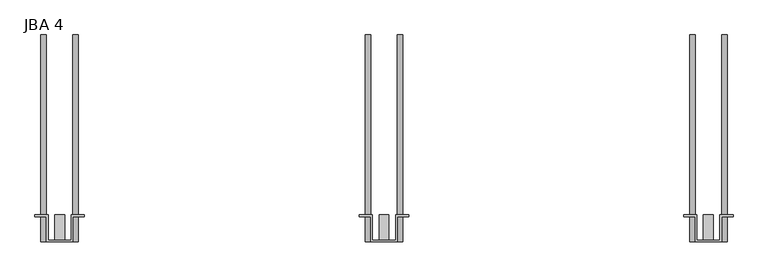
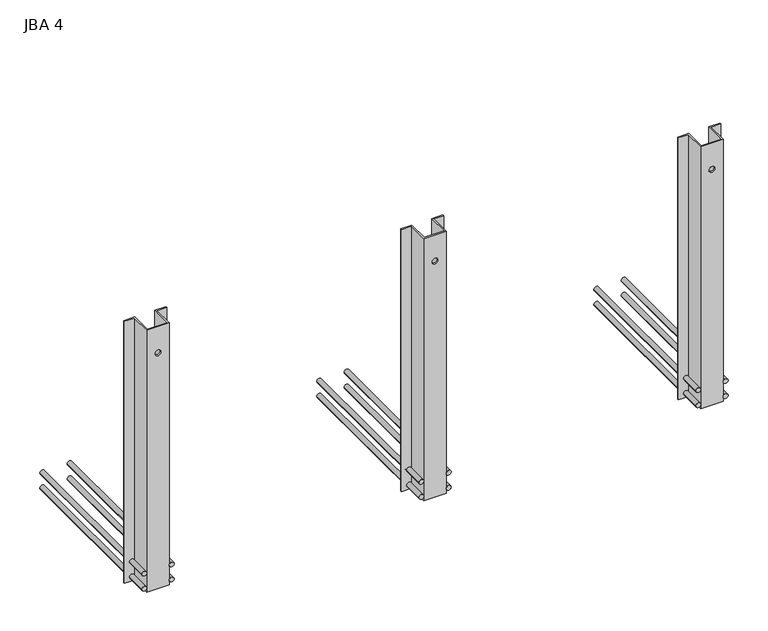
"""IFC4 building model written with IfcOpenShell, lengths in millimetres: fastener geometry, JBA JORDAHL® support corbels_1 : JBA 4."""

from ifc_helpers import new_model, si_unit, point, frame, frame_2d, origin, place, context, project, spatial, polyline, circle_curve, trimmed, segment, composite_curve, outline, extrude, source, transform, mapped, element, save
from ifc_brep_helpers import plane_surface, revolved_surface, advanced_brep


def jba_4_dde57de7(model_context):
    return source(origin(), model_context, "Body", "SolidModel", [
        extrude(outline(composite_curve([segment(trimmed(circle_curve(frame_2d((-32.0, 1560.5)), 7.0), [point((-32.0, 1553.5))], [point((-32.0, 1567.5))], False, "CARTESIAN"), True, "CONTINUOUS"), segment(trimmed(circle_curve(frame_2d((-32.0, 1560.5)), 7.0), [point((-32.0, 1567.5))], [point((-32.0, 1553.5))], False, "CARTESIAN"), True, "CONTINUOUS")], self_intersect=False)), frame((0.0, 0.0, 0.0), z_axis=(0.0, 1.0, 0.0), x_axis=(0.0, 0.0, 1.0)), (0.0, 0.0, 1.0), 510.0),
        extrude(outline(composite_curve([segment(trimmed(circle_curve(frame_2d((-32.0, 1639.5)), 7.0), [point((-32.0, 1632.5))], [point((-32.0, 1646.5))], False, "CARTESIAN"), True, "CONTINUOUS"), segment(trimmed(circle_curve(frame_2d((-32.0, 1639.5)), 7.0), [point((-32.0, 1646.5))], [point((-32.0, 1632.5))], False, "CARTESIAN"), True, "CONTINUOUS")], self_intersect=False)), frame((0.0, 0.0, 0.0), z_axis=(0.0, 1.0, 0.0), x_axis=(0.0, 0.0, 1.0)), (0.0, 0.0, 1.0), 510.0),
        extrude(outline(composite_curve([segment(trimmed(circle_curve(frame_2d((-78.0, 1560.5)), 7.0), [point((-78.0, 1553.5))], [point((-78.0, 1567.5))], False, "CARTESIAN"), True, "CONTINUOUS"), segment(trimmed(circle_curve(frame_2d((-78.0, 1560.5)), 7.0), [point((-78.0, 1567.5))], [point((-78.0, 1553.5))], False, "CARTESIAN"), True, "CONTINUOUS")], self_intersect=False)), frame((0.0, 0.0, 0.0), z_axis=(0.0, 1.0, 0.0), x_axis=(0.0, 0.0, 1.0)), (0.0, 0.0, 1.0), 510.0),
        extrude(outline(composite_curve([segment(trimmed(circle_curve(frame_2d((-78.0, 1639.5)), 7.0), [point((-78.0, 1632.5))], [point((-78.0, 1646.5))], False, "CARTESIAN"), True, "CONTINUOUS"), segment(trimmed(circle_curve(frame_2d((-78.0, 1639.5)), 7.0), [point((-78.0, 1646.5))], [point((-78.0, 1632.5))], False, "CARTESIAN"), True, "CONTINUOUS")], self_intersect=False)), frame((0.0, 0.0, 0.0), z_axis=(0.0, 1.0, 0.0), x_axis=(0.0, 0.0, 1.0)), (0.0, 0.0, 1.0), 510.0),
        advanced_brep(
        [(1539.0, 62.0, 708.0), (1567.5, 62.0, 708.0), (1567.5, 0.0, 708.0), (1632.5, 0.0, 708.0), (1632.5, 62.0, 708.0), (1661.0, 62.0, 708.0), (1661.0, 66.0, 708.0), (1628.5, 66.0, 708.0), (1628.5, 4.0, 708.0), (1571.5, 4.0, 708.0), (1571.5, 66.0, 708.0), (1539.0, 66.0, 708.0), (1539.0, 62.0, -92.0), (1539.0, 66.0, -92.0), (1571.5, 66.0, -92.0), (1571.5, 4.0, -92.0), (1628.5, 4.0, -92.0), (1628.5, 66.0, -92.0), (1661.0, 66.0, -92.0), (1661.0, 62.0, -92.0), (1632.5, 62.0, -92.0), (1632.5, 0.0, -92.0), (1567.5, 0.0, -92.0), (1567.5, 62.0, -92.0), (1608.5, 0.0, 628.0), (1591.5, 0.0, 628.0), (1591.5, 4.0, 628.0), (1608.5, 4.0, 628.0)],
        [
            (0, 1),
            (1, 2),
            (2, 3),
            (3, 4),
            (4, 5),
            (5, 6),
            (6, 7),
            (7, 8),
            (8, 9),
            (9, 10),
            (10, 11),
            (11, 0),
            (12, 13),
            (13, 14),
            (14, 15),
            (15, 16),
            (16, 17),
            (17, 18),
            (18, 19),
            (19, 20),
            (20, 21),
            (21, 22),
            (22, 23),
            (23, 12),
            (0, 12),
            (23, 1),
            (22, 2),
            (21, 3),
            (24, 25, circle_curve(frame((1600.0, 0.0, 628.0), z_axis=(0.0, 1.0, 0.0), x_axis=(1.0, 0.0, 0.0)), 8.5)),
            (25, 24, circle_curve(frame((1600.0, 0.0, 628.0), z_axis=(0.0, 1.0, 0.0), x_axis=(1.0, 0.0, 0.0)), 8.5)),
            (20, 4),
            (19, 5),
            (18, 6),
            (17, 7),
            (16, 8),
            (15, 9),
            (26, 27, circle_curve(frame((1600.0, 4.0, 628.0), z_axis=(0.0, -1.0, 0.0), x_axis=(1.0, 0.0, 0.0)), 8.5)),
            (27, 26, circle_curve(frame((1600.0, 4.0, 628.0), z_axis=(0.0, -1.0, 0.0), x_axis=(1.0, 0.0, 0.0)), 8.5)),
            (14, 10),
            (13, 11),
            (24, 27),
            (26, 25),
        ],
        [
            plane_surface(frame((1600.0, 66.0, 708.0), z_axis=(0.0, 0.0, 1.0), x_axis=(0.0, -1.0, 0.0))),
            plane_surface(frame((1600.0, 66.0, -92.0), z_axis=(0.0, 0.0, -1.0), x_axis=(0.0, -1.0, 0.0))),
            plane_surface(frame((1539.0, 62.0, 708.0), z_axis=(0.0, -1.0, 0.0), x_axis=(0.0, 0.0, -1.0))),
            plane_surface(frame((1567.5, 62.0, 708.0), z_axis=(-1.0, 0.0, 0.0), x_axis=(0.0, 0.0, -1.0))),
            plane_surface(frame((1567.5, 0.0, 708.0), z_axis=(0.0, -1.0, 0.0), x_axis=(0.0, 0.0, -1.0))),
            plane_surface(frame((1632.5, 0.0, 708.0), z_axis=(1.0, 0.0, 0.0), x_axis=(0.0, 0.0, -1.0))),
            plane_surface(frame((1632.5, 62.0, 708.0), z_axis=(0.0, -1.0, 0.0), x_axis=(0.0, 0.0, -1.0))),
            plane_surface(frame((1661.0, 62.0, 708.0), z_axis=(1.0, 0.0, 0.0), x_axis=(0.0, 0.0, -1.0))),
            plane_surface(frame((1661.0, 66.0, 708.0), z_axis=(0.0, 1.0, 0.0), x_axis=(0.0, 0.0, -1.0))),
            plane_surface(frame((1628.5, 66.0, 708.0), z_axis=(-1.0, 0.0, 0.0), x_axis=(0.0, 0.0, -1.0))),
            plane_surface(frame((1628.5, 4.0, 708.0), z_axis=(0.0, 1.0, 0.0), x_axis=(0.0, 0.0, -1.0))),
            plane_surface(frame((1571.5, 4.0, 708.0), z_axis=(1.0, 0.0, 0.0), x_axis=(0.0, 0.0, -1.0))),
            plane_surface(frame((1571.5, 66.0, 708.0), z_axis=(0.0, 1.0, 0.0), x_axis=(0.0, 0.0, -1.0))),
            plane_surface(frame((1539.0, 66.0, 708.0), z_axis=(-1.0, 0.0, 0.0), x_axis=(0.0, 0.0, -1.0))),
            revolved_surface(polyline([(1608.5, 0.0, 628.0), (1608.5, 4.0, 628.0)]), (1600.0, 4.0, 628.0), (0.0, -1.0, 0.0)),
        ],
        [
            (0, [[1, 2, 3, 4, 5, 6, 7, 8, 9, 10, 11, 12]]),
            (1, [[13, 14, 15, 16, 17, 18, 19, 20, 21, 22, 23, 24]]),
            (2, [[-1, 25, -24, 26]]),
            (3, [[-2, -26, -23, 27]]),
            (4, [[-3, -27, -22, 28], [29, 30]]),
            (5, [[-4, -28, -21, 31]]),
            (6, [[-5, -31, -20, 32]]),
            (7, [[-6, -32, -19, 33]]),
            (8, [[-7, -33, -18, 34]]),
            (9, [[-8, -34, -17, 35]]),
            (10, [[-9, -35, -16, 36], [37, 38]]),
            (11, [[-10, -36, -15, 39]]),
            (12, [[-11, -39, -14, 40]]),
            (13, [[-12, -40, -13, -25]]),
            (14, [[41, -37, 42, -29]]),
            (14, [[-41, -30, -42, -38]]),
        ],
    ),
        extrude(outline(composite_curve([segment(trimmed(circle_curve(frame_2d((150.0, 1600.0)), 12.0), [point((150.0, 1588.0))], [point((150.0, 1612.0))], False, "CARTESIAN"), True, "CONTINUOUS"), segment(trimmed(circle_curve(frame_2d((150.0, 1600.0)), 12.0), [point((150.0, 1612.0))], [point((150.0, 1588.0))], False, "CARTESIAN"), True, "CONTINUOUS")], self_intersect=False)), frame((0.0, 4.0, 0.0), z_axis=(0.0, 1.0, 0.0), x_axis=(0.0, 0.0, 1.0)), (0.0, 0.0, 1.0), 62.0),
        extrude(outline(composite_curve([segment(trimmed(circle_curve(frame_2d((-32.0, 760.5)), 7.0), [point((-32.0, 753.5))], [point((-32.0, 767.5))], False, "CARTESIAN"), True, "CONTINUOUS"), segment(trimmed(circle_curve(frame_2d((-32.0, 760.5)), 7.0), [point((-32.0, 767.5))], [point((-32.0, 753.5))], False, "CARTESIAN"), True, "CONTINUOUS")], self_intersect=False)), frame((0.0, 0.0, 0.0), z_axis=(0.0, 1.0, 0.0), x_axis=(0.0, 0.0, 1.0)), (0.0, 0.0, 1.0), 510.0),
        extrude(outline(composite_curve([segment(trimmed(circle_curve(frame_2d((-32.0, 839.5)), 7.0), [point((-32.0, 832.5))], [point((-32.0, 846.5))], False, "CARTESIAN"), True, "CONTINUOUS"), segment(trimmed(circle_curve(frame_2d((-32.0, 839.5)), 7.0), [point((-32.0, 846.5))], [point((-32.0, 832.5))], False, "CARTESIAN"), True, "CONTINUOUS")], self_intersect=False)), frame((0.0, 0.0, 0.0), z_axis=(0.0, 1.0, 0.0), x_axis=(0.0, 0.0, 1.0)), (0.0, 0.0, 1.0), 510.0),
        extrude(outline(composite_curve([segment(trimmed(circle_curve(frame_2d((-78.0, 760.5)), 7.0), [point((-78.0, 753.5))], [point((-78.0, 767.5))], False, "CARTESIAN"), True, "CONTINUOUS"), segment(trimmed(circle_curve(frame_2d((-78.0, 760.5)), 7.0), [point((-78.0, 767.5))], [point((-78.0, 753.5))], False, "CARTESIAN"), True, "CONTINUOUS")], self_intersect=False)), frame((0.0, 0.0, 0.0), z_axis=(0.0, 1.0, 0.0), x_axis=(0.0, 0.0, 1.0)), (0.0, 0.0, 1.0), 510.0),
        extrude(outline(composite_curve([segment(trimmed(circle_curve(frame_2d((-78.0, 839.5)), 7.0), [point((-78.0, 832.5))], [point((-78.0, 846.5))], False, "CARTESIAN"), True, "CONTINUOUS"), segment(trimmed(circle_curve(frame_2d((-78.0, 839.5)), 7.0), [point((-78.0, 846.5))], [point((-78.0, 832.5))], False, "CARTESIAN"), True, "CONTINUOUS")], self_intersect=False)), frame((0.0, 0.0, 0.0), z_axis=(0.0, 1.0, 0.0), x_axis=(0.0, 0.0, 1.0)), (0.0, 0.0, 1.0), 510.0),
        advanced_brep(
        [(739.0, 62.0, 708.0), (767.5, 62.0, 708.0), (767.5, 0.0, 708.0), (832.5, 0.0, 708.0), (832.5, 62.0, 708.0), (861.0, 62.0, 708.0), (861.0, 66.0, 708.0), (828.5, 66.0, 708.0), (828.5, 4.0, 708.0), (771.5, 4.0, 708.0), (771.5, 66.0, 708.0), (739.0, 66.0, 708.0), (739.0, 62.0, -92.0), (739.0, 66.0, -92.0), (771.5, 66.0, -92.0), (771.5, 4.0, -92.0), (828.5, 4.0, -92.0), (828.5, 66.0, -92.0), (861.0, 66.0, -92.0), (861.0, 62.0, -92.0), (832.5, 62.0, -92.0), (832.5, 0.0, -92.0), (767.5, 0.0, -92.0), (767.5, 62.0, -92.0), (808.5, 0.0, 628.0), (791.5, 0.0, 628.0), (791.5, 4.0, 628.0), (808.5, 4.0, 628.0)],
        [
            (0, 1),
            (1, 2),
            (2, 3),
            (3, 4),
            (4, 5),
            (5, 6),
            (6, 7),
            (7, 8),
            (8, 9),
            (9, 10),
            (10, 11),
            (11, 0),
            (12, 13),
            (13, 14),
            (14, 15),
            (15, 16),
            (16, 17),
            (17, 18),
            (18, 19),
            (19, 20),
            (20, 21),
            (21, 22),
            (22, 23),
            (23, 12),
            (0, 12),
            (23, 1),
            (22, 2),
            (21, 3),
            (24, 25, circle_curve(frame((800.0, 0.0, 628.0), z_axis=(0.0, 1.0, 0.0), x_axis=(1.0, 0.0, 0.0)), 8.5)),
            (25, 24, circle_curve(frame((800.0, 0.0, 628.0), z_axis=(0.0, 1.0, 0.0), x_axis=(1.0, 0.0, 0.0)), 8.5)),
            (20, 4),
            (19, 5),
            (18, 6),
            (17, 7),
            (16, 8),
            (15, 9),
            (26, 27, circle_curve(frame((800.0, 4.0, 628.0), z_axis=(0.0, -1.0, 0.0), x_axis=(1.0, 0.0, 0.0)), 8.5)),
            (27, 26, circle_curve(frame((800.0, 4.0, 628.0), z_axis=(0.0, -1.0, 0.0), x_axis=(1.0, 0.0, 0.0)), 8.5)),
            (14, 10),
            (13, 11),
            (24, 27),
            (26, 25),
        ],
        [
            plane_surface(frame((800.0, 66.0, 708.0), z_axis=(0.0, 0.0, 1.0), x_axis=(0.0, -1.0, 0.0))),
            plane_surface(frame((800.0, 66.0, -92.0), z_axis=(0.0, 0.0, -1.0), x_axis=(0.0, -1.0, 0.0))),
            plane_surface(frame((739.0, 62.0, 708.0), z_axis=(0.0, -1.0, 0.0), x_axis=(0.0, 0.0, -1.0))),
            plane_surface(frame((767.5, 62.0, 708.0), z_axis=(-1.0, 0.0, 0.0), x_axis=(0.0, 0.0, -1.0))),
            plane_surface(frame((767.5, 0.0, 708.0), z_axis=(0.0, -1.0, 0.0), x_axis=(0.0, 0.0, -1.0))),
            plane_surface(frame((832.5, 0.0, 708.0), z_axis=(1.0, 0.0, 0.0), x_axis=(0.0, 0.0, -1.0))),
            plane_surface(frame((832.5, 62.0, 708.0), z_axis=(0.0, -1.0, 0.0), x_axis=(0.0, 0.0, -1.0))),
            plane_surface(frame((861.0, 62.0, 708.0), z_axis=(1.0, 0.0, 0.0), x_axis=(0.0, 0.0, -1.0))),
            plane_surface(frame((861.0, 66.0, 708.0), z_axis=(0.0, 1.0, 0.0), x_axis=(0.0, 0.0, -1.0))),
            plane_surface(frame((828.5, 66.0, 708.0), z_axis=(-1.0, 0.0, 0.0), x_axis=(0.0, 0.0, -1.0))),
            plane_surface(frame((828.5, 4.0, 708.0), z_axis=(0.0, 1.0, 0.0), x_axis=(0.0, 0.0, -1.0))),
            plane_surface(frame((771.5, 4.0, 708.0), z_axis=(1.0, 0.0, 0.0), x_axis=(0.0, 0.0, -1.0))),
            plane_surface(frame((771.5, 66.0, 708.0), z_axis=(0.0, 1.0, 0.0), x_axis=(0.0, 0.0, -1.0))),
            plane_surface(frame((739.0, 66.0, 708.0), z_axis=(-1.0, 0.0, 0.0), x_axis=(0.0, 0.0, -1.0))),
            revolved_surface(polyline([(808.5, 0.0, 628.0), (808.5, 4.0, 628.0)]), (800.0, 4.0, 628.0), (0.0, -1.0, 0.0)),
        ],
        [
            (0, [[1, 2, 3, 4, 5, 6, 7, 8, 9, 10, 11, 12]]),
            (1, [[13, 14, 15, 16, 17, 18, 19, 20, 21, 22, 23, 24]]),
            (2, [[-1, 25, -24, 26]]),
            (3, [[-2, -26, -23, 27]]),
            (4, [[-3, -27, -22, 28], [29, 30]]),
            (5, [[-4, -28, -21, 31]]),
            (6, [[-5, -31, -20, 32]]),
            (7, [[-6, -32, -19, 33]]),
            (8, [[-7, -33, -18, 34]]),
            (9, [[-8, -34, -17, 35]]),
            (10, [[-9, -35, -16, 36], [37, 38]]),
            (11, [[-10, -36, -15, 39]]),
            (12, [[-11, -39, -14, 40]]),
            (13, [[-12, -40, -13, -25]]),
            (14, [[41, -37, 42, -29]]),
            (14, [[-41, -30, -42, -38]]),
        ],
    ),
        extrude(outline(composite_curve([segment(trimmed(circle_curve(frame_2d((150.0, 800.0)), 12.0), [point((150.0, 788.0))], [point((150.0, 812.0))], False, "CARTESIAN"), True, "CONTINUOUS"), segment(trimmed(circle_curve(frame_2d((150.0, 800.0)), 12.0), [point((150.0, 812.0))], [point((150.0, 788.0))], False, "CARTESIAN"), True, "CONTINUOUS")], self_intersect=False)), frame((0.0, 4.0, 0.0), z_axis=(0.0, 1.0, 0.0), x_axis=(0.0, 0.0, 1.0)), (0.0, 0.0, 1.0), 62.0),
        extrude(outline(composite_curve([segment(trimmed(circle_curve(frame_2d((-32.0, -39.5)), 7.0), [point((-32.0, -46.5))], [point((-32.0, -32.5))], False, "CARTESIAN"), True, "CONTINUOUS"), segment(trimmed(circle_curve(frame_2d((-32.0, -39.5)), 7.0), [point((-32.0, -32.5))], [point((-32.0, -46.5))], False, "CARTESIAN"), True, "CONTINUOUS")], self_intersect=False)), frame((0.0, 0.0, 0.0), z_axis=(0.0, 1.0, 0.0), x_axis=(0.0, 0.0, 1.0)), (0.0, 0.0, 1.0), 510.0),
        extrude(outline(composite_curve([segment(trimmed(circle_curve(frame_2d((-32.0, 39.5)), 7.0), [point((-32.0, 32.5))], [point((-32.0, 46.5))], False, "CARTESIAN"), True, "CONTINUOUS"), segment(trimmed(circle_curve(frame_2d((-32.0, 39.5)), 7.0), [point((-32.0, 46.5))], [point((-32.0, 32.5))], False, "CARTESIAN"), True, "CONTINUOUS")], self_intersect=False)), frame((0.0, 0.0, 0.0), z_axis=(0.0, 1.0, 0.0), x_axis=(0.0, 0.0, 1.0)), (0.0, 0.0, 1.0), 510.0),
        extrude(outline(composite_curve([segment(trimmed(circle_curve(frame_2d((-78.0, -39.5)), 7.0), [point((-78.0, -46.5))], [point((-78.0, -32.5))], False, "CARTESIAN"), True, "CONTINUOUS"), segment(trimmed(circle_curve(frame_2d((-78.0, -39.5)), 7.0), [point((-78.0, -32.5))], [point((-78.0, -46.5))], False, "CARTESIAN"), True, "CONTINUOUS")], self_intersect=False)), frame((0.0, 0.0, 0.0), z_axis=(0.0, 1.0, 0.0), x_axis=(0.0, 0.0, 1.0)), (0.0, 0.0, 1.0), 510.0),
        extrude(outline(composite_curve([segment(trimmed(circle_curve(frame_2d((-78.0, 39.5)), 7.0), [point((-78.0, 32.5))], [point((-78.0, 46.5))], False, "CARTESIAN"), True, "CONTINUOUS"), segment(trimmed(circle_curve(frame_2d((-78.0, 39.5)), 7.0), [point((-78.0, 46.5))], [point((-78.0, 32.5))], False, "CARTESIAN"), True, "CONTINUOUS")], self_intersect=False)), frame((0.0, 0.0, 0.0), z_axis=(0.0, 1.0, 0.0), x_axis=(0.0, 0.0, 1.0)), (0.0, 0.0, 1.0), 510.0),
        advanced_brep(
        [(-61.0, 62.0, 708.0), (-32.5, 62.0, 708.0), (-32.5, 0.0, 708.0), (32.5, 0.0, 708.0), (32.5, 62.0, 708.0), (61.0, 62.0, 708.0), (61.0, 66.0, 708.0), (28.5, 66.0, 708.0), (28.5, 4.0, 708.0), (-28.5, 4.0, 708.0), (-28.5, 66.0, 708.0), (-61.0, 66.0, 708.0), (-61.0, 62.0, -92.0), (-61.0, 66.0, -92.0), (-28.5, 66.0, -92.0), (-28.5, 4.0, -92.0), (28.5, 4.0, -92.0), (28.5, 66.0, -92.0), (61.0, 66.0, -92.0), (61.0, 62.0, -92.0), (32.5, 62.0, -92.0), (32.5, 0.0, -92.0), (-32.5, 0.0, -92.0), (-32.5, 62.0, -92.0), (8.5, 0.0, 628.0), (-8.5, 0.0, 628.0), (-8.5, 4.0, 628.0), (8.5, 4.0, 628.0)],
        [
            (0, 1),
            (1, 2),
            (2, 3),
            (3, 4),
            (4, 5),
            (5, 6),
            (6, 7),
            (7, 8),
            (8, 9),
            (9, 10),
            (10, 11),
            (11, 0),
            (12, 13),
            (13, 14),
            (14, 15),
            (15, 16),
            (16, 17),
            (17, 18),
            (18, 19),
            (19, 20),
            (20, 21),
            (21, 22),
            (22, 23),
            (23, 12),
            (0, 12),
            (23, 1),
            (22, 2),
            (21, 3),
            (24, 25, circle_curve(frame((0.0, 0.0, 628.0), z_axis=(0.0, 1.0, 0.0), x_axis=(1.0, 0.0, 0.0)), 8.5)),
            (25, 24, circle_curve(frame((0.0, 0.0, 628.0), z_axis=(0.0, 1.0, 0.0), x_axis=(1.0, 0.0, 0.0)), 8.5)),
            (20, 4),
            (19, 5),
            (18, 6),
            (17, 7),
            (16, 8),
            (15, 9),
            (26, 27, circle_curve(frame((0.0, 4.0, 628.0), z_axis=(0.0, -1.0, 0.0), x_axis=(1.0, 0.0, 0.0)), 8.5)),
            (27, 26, circle_curve(frame((0.0, 4.0, 628.0), z_axis=(0.0, -1.0, 0.0), x_axis=(1.0, 0.0, 0.0)), 8.5)),
            (14, 10),
            (13, 11),
            (24, 27),
            (26, 25),
        ],
        [
            plane_surface(frame((0.0, 66.0, 708.0), z_axis=(0.0, 0.0, 1.0), x_axis=(0.0, -1.0, 0.0))),
            plane_surface(frame((0.0, 66.0, -92.0), z_axis=(0.0, 0.0, -1.0), x_axis=(0.0, -1.0, 0.0))),
            plane_surface(frame((-61.0, 62.0, 708.0), z_axis=(0.0, -1.0, 0.0), x_axis=(0.0, 0.0, -1.0))),
            plane_surface(frame((-32.5, 62.0, 708.0), z_axis=(-1.0, 0.0, 0.0), x_axis=(0.0, 0.0, -1.0))),
            plane_surface(frame((-32.5, 0.0, 708.0), z_axis=(0.0, -1.0, 0.0), x_axis=(0.0, 0.0, -1.0))),
            plane_surface(frame((32.5, 0.0, 708.0), z_axis=(1.0, 0.0, 0.0), x_axis=(0.0, 0.0, -1.0))),
            plane_surface(frame((32.5, 62.0, 708.0), z_axis=(0.0, -1.0, 0.0), x_axis=(0.0, 0.0, -1.0))),
            plane_surface(frame((61.0, 62.0, 708.0), z_axis=(1.0, 0.0, 0.0), x_axis=(0.0, 0.0, -1.0))),
            plane_surface(frame((61.0, 66.0, 708.0), z_axis=(0.0, 1.0, 0.0), x_axis=(0.0, 0.0, -1.0))),
            plane_surface(frame((28.5, 66.0, 708.0), z_axis=(-1.0, 0.0, 0.0), x_axis=(0.0, 0.0, -1.0))),
            plane_surface(frame((28.5, 4.0, 708.0), z_axis=(0.0, 1.0, 0.0), x_axis=(0.0, 0.0, -1.0))),
            plane_surface(frame((-28.5, 4.0, 708.0), z_axis=(1.0, 0.0, 0.0), x_axis=(0.0, 0.0, -1.0))),
            plane_surface(frame((-28.5, 66.0, 708.0), z_axis=(0.0, 1.0, 0.0), x_axis=(0.0, 0.0, -1.0))),
            plane_surface(frame((-61.0, 66.0, 708.0), z_axis=(-1.0, 0.0, 0.0), x_axis=(0.0, 0.0, -1.0))),
            revolved_surface(polyline([(8.5, 0.0, 628.0), (8.5, 4.0, 628.0)]), (0.0, 4.0, 628.0), (0.0, -1.0, 0.0)),
        ],
        [
            (0, [[1, 2, 3, 4, 5, 6, 7, 8, 9, 10, 11, 12]]),
            (1, [[13, 14, 15, 16, 17, 18, 19, 20, 21, 22, 23, 24]]),
            (2, [[-1, 25, -24, 26]]),
            (3, [[-2, -26, -23, 27]]),
            (4, [[-3, -27, -22, 28], [29, 30]]),
            (5, [[-4, -28, -21, 31]]),
            (6, [[-5, -31, -20, 32]]),
            (7, [[-6, -32, -19, 33]]),
            (8, [[-7, -33, -18, 34]]),
            (9, [[-8, -34, -17, 35]]),
            (10, [[-9, -35, -16, 36], [37, 38]]),
            (11, [[-10, -36, -15, 39]]),
            (12, [[-11, -39, -14, 40]]),
            (13, [[-12, -40, -13, -25]]),
            (14, [[41, -37, 42, -29]]),
            (14, [[-41, -30, -42, -38]]),
        ],
    ),
        extrude(outline(composite_curve([segment(trimmed(circle_curve(frame_2d((150.0, 0.0)), 12.0), [point((150.0, -12.0))], [point((150.0, 12.0))], False, "CARTESIAN"), True, "CONTINUOUS"), segment(trimmed(circle_curve(frame_2d((150.0, 0.0)), 12.0), [point((150.0, 12.0))], [point((150.0, -12.0))], False, "CARTESIAN"), True, "CONTINUOUS")], self_intersect=False)), frame((0.0, 4.0, 0.0), z_axis=(0.0, 1.0, 0.0), x_axis=(0.0, 0.0, 1.0)), (0.0, 0.0, 1.0), 62.0),
    ])


if __name__ == "__main__":
    model = new_model("IFC4")
    model_context = context("Model", 3, world=origin())
    ifc_project = project(units=[si_unit("LENGTHUNIT", "METRE", prefix="MILLI")], contexts=[model_context])
    site = spatial("IfcSite", under=ifc_project)
    building = spatial("IfcBuilding", under=site)
    placement = place(None, origin())
    jba_4_shape = jba_4_dde57de7(model_context)
    element("IfcFastener", 1, ObjectType="JBA JORDAHL® support corbels_1 : JBA 4", at=placement, inside=building, context=model_context, shape_type="MappedRepresentation", body=[
        mapped(jba_4_shape, transform((0.0, 0.0, 0.0), x_axis=(1.0, 0.0, 0.0), y_axis=(0.0, 1.0, 0.0), z_axis=(0.0, 0.0, 1.0))),
    ])
    save(model, "model.ifc")
